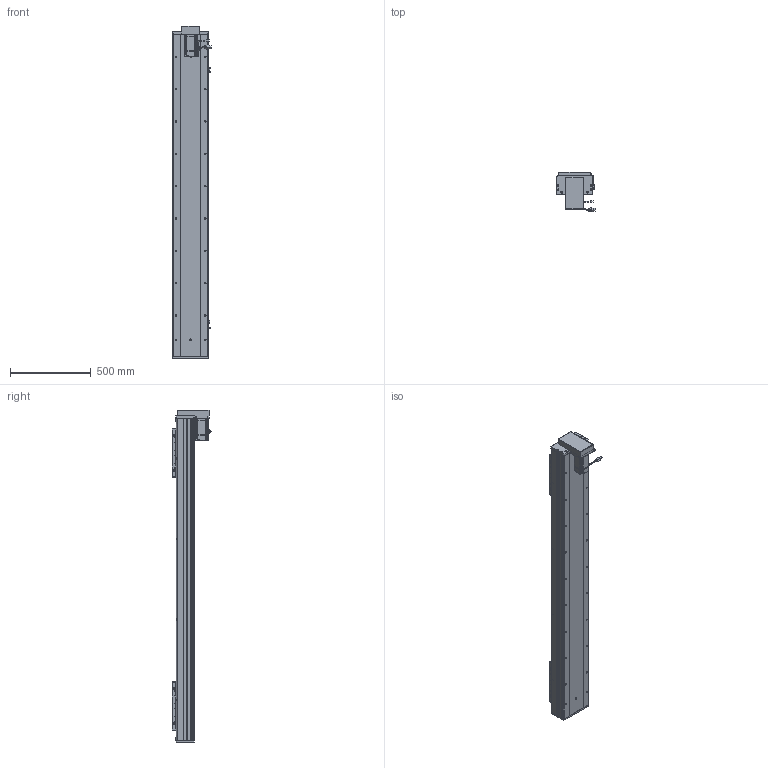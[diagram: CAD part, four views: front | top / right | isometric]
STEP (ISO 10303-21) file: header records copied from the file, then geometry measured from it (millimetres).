
FILE_DESCRIPTION (( 'STEP AP203' ), '1' );
FILE_NAME ('RY220F-L2525-800-BK-邧嶺.SLDASM_1550.step', '2022-08-06T08:08:16', ( '' ), ( '' ), 'SwSTEP 2.0', 'SolidWorks 2016', '' );
FILE_SCHEMA (( 'CONFIG_CONTROL_DESIGN' ));
Length unit declared in the file: millimetre
Products named in the file (15): RY220狟殏萇儂欶; RY220F-祥凄詩湍-蛌殏-800_1550; RY220F綴裔啣; 怢湛750W_ECMA-CX0807ES; RY220F-滅鳥奻裔; RY220F-672覜茼んえ; RY220F蛌殏菁釱-800-邧嶺_1550; 侐源滅袉蝶; RY220狟殏萇儂假蚾啣; 覜茼ん672; RY220F-L2525-800-BK-邧嶺.SLDASM_1550; RY220F臏賑釱25-32佪裝; RY220F-蛌殏奻裔啣-800_1550; 滅袉蝶18-24; RY220F-詩湍揤踡輸
Assembly tree (24 placements, depth 2):
  RY220F-L2525-800-BK-邧嶺.SLDASM_1550
    RY220F蛌殏菁釱-800-邧嶺_1550
    RY220F-蛌殏奻裔啣-800_1550  x2
    怢湛750W_ECMA-CX0807ES
    RY220F臏賑釱25-32佪裝  x2
    RY220F-滅鳥奻裔  x2
    滅袉蝶18-24  x3
    RY220F綴裔啣
    RY220F-祥凄詩湍-蛌殏-800_1550
    RY220F-詩湍揤踡輸  x2
    覜茼ん672  x3
    RY220F-672覜茼んえ  x2
    侐源滅袉蝶  x2
    RY220狟殏萇儂假蚾啣
    RY220狟殏萇儂欶
Bounding box: 237.27 x 247.24 x 2053 mm (x, y, z)
Volume: 18228213.4 mm3; surface area: 4778683.5 mm2
Topology: 25 solids, 25 shells, 2855 faces, 7746 edges, 4771 vertices
Faces by surface type: cylinder 1278, plane 1062, cone 444, bspline 45, sphere 16, torus 10
Entity records: 70977 total; most frequent: CARTESIAN_POINT 19037, ORIENTED_EDGE 10474, DIRECTION 10249, EDGE_CURVE 5237, AXIS2_PLACEMENT_3D 3650, VERTEX_POINT 3387, VECTOR 2949, LINE 2949
